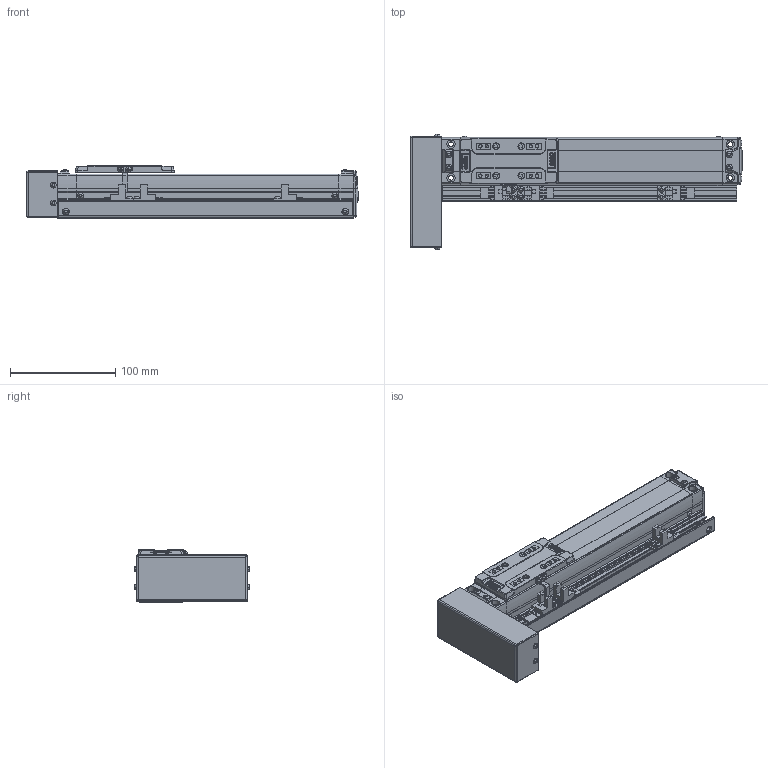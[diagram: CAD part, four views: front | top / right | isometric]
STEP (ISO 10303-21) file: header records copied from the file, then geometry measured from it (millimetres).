
FILE_DESCRIPTION(('STEP AP214'),'1');
FILE_NAME('Z:/Web/3D/SAN45/2013.ver/STP/SAN45-150PR+3SR.stp','2013-05-15T00:22:50',(' '),(' '),'Spatial InterOp 3D',' ',' ');
FILE_SCHEMA(('automotive_design'));
Length unit declared in the file: millimetre
Products named in the file (46): BTCV-SAN45; BHCS M3 X 6L; BODY-SAN45; REAR-SAN45; RRCV-SAN45; BHCS M3 x 6L; FRONT-SAN45; SHAFT; RN8 x 0.75; SSFX-SAN45; SLIDE-SAN45; SLCV-IM45; FHCS M3 x 6L; SRL-16x17-380L; EE-SX674; SBK-SX674-352; SDG-SA45; SCREW M3 x 5L
Bounding box: 316.15 x 110.13 x 50 mm (x, y, z)
Volume: 690815.9 mm3; surface area: 159867.1 mm2
Topology: 46 solids, 46 shells, 2319 faces, 5989 edges, 3849 vertices
Faces by surface type: plane 1288, cylinder 723, cone 142, sphere 84, bspline 44, torus 32, extrusion 6
Entity records: 93979 total; most frequent: CARTESIAN_POINT 16779, DIRECTION 12468, ORIENTED_EDGE 11846, EDGE_CURVE 5923, AXIS2_PLACEMENT_3D 4351, VERTEX_POINT 3849, VECTOR 3766, LINE 3760
